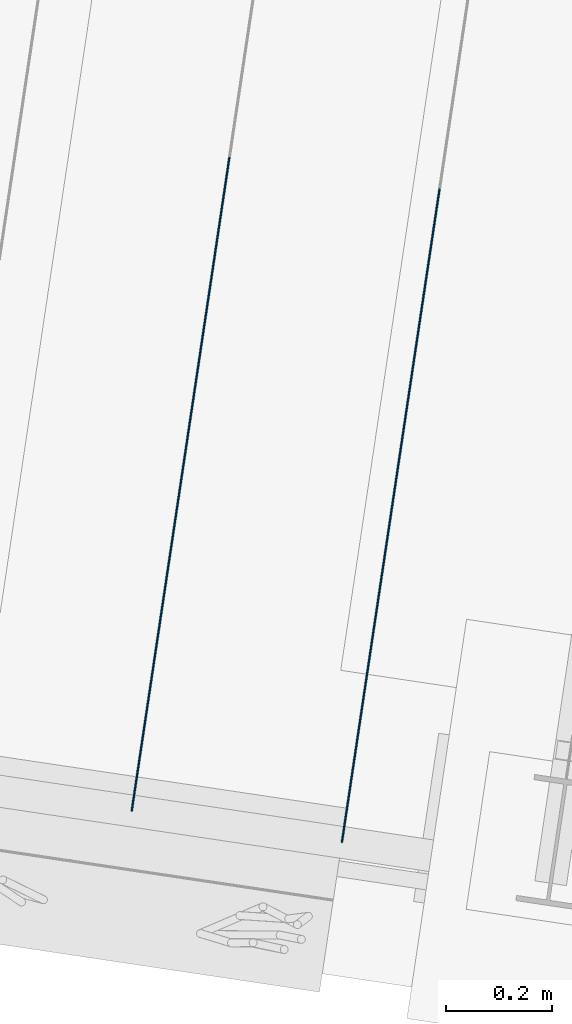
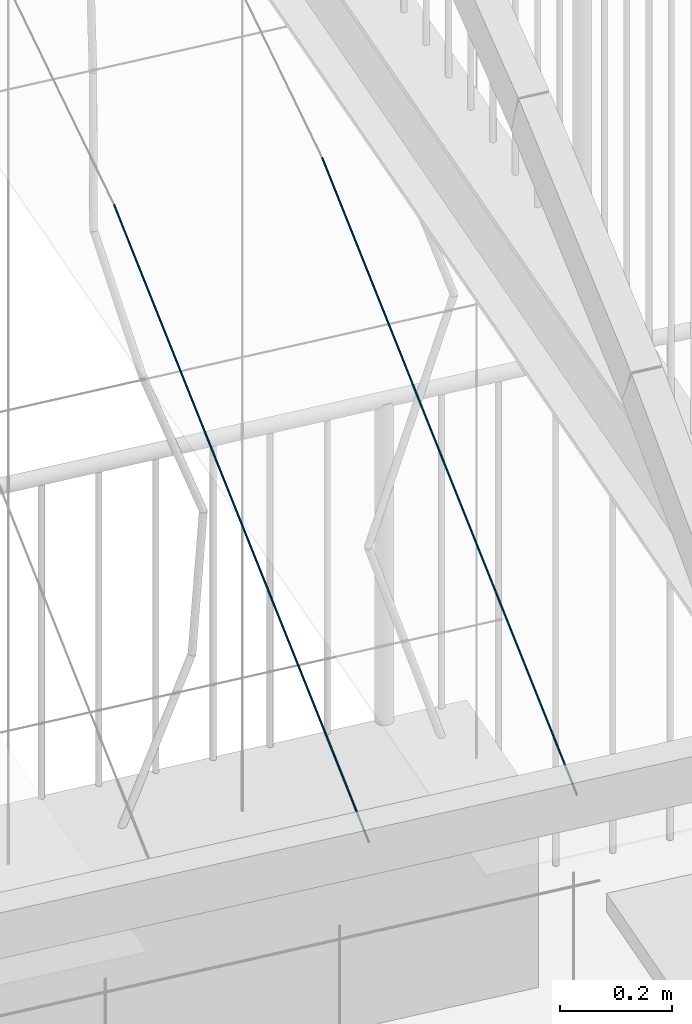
# One storey, part 14 of 143: 2 members, 1 element without a shape of its own.
"""IFC4 building model written with IfcOpenShell, lengths in metres."""

from ifc_helpers import new_model, si_unit, direction, frame, origin_with_axes, place, context, subcontext, project, spatial, circle, extrude, material, material_profile, profile_set, profile_usage, type_object, element, aggregate, save


model = new_model("IFC4")

# Units and contexts
model_context = context("Model", 3, precision=1e-05, world=origin_with_axes(), true_north=direction((0.0, 1.0)))
body_context = subcontext(model_context, "Body", "Model", "MODEL_VIEW")
ifc_project = project(units=[si_unit("VOLUMEUNIT", "CUBIC_METRE"), si_unit("LENGTHUNIT", "METRE"), si_unit("AREAUNIT", "SQUARE_METRE")], contexts=[model_context])

# Site, building, storey
site_placement = place(None, origin_with_axes())
site = spatial("IfcSite", under=ifc_project, at=site_placement, Name="Lares · Rua das Mercês · artigo 4771")
building_placement = place(site_placement, frame((15.0, 9.7, 15.8), z_axis=(0.0, 0.0, 1.0), x_axis=(0.989015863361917, -0.147809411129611, 0.0)))
building = spatial("IfcBuilding", under=site, at=building_placement, Name="Casa Sobreposta")
storey_placement = place(building_placement, origin_with_axes())
storey = spatial("IfcBuildingStorey", under=building, at=storey_placement, Name="00 · Habitação e estacionamento", Elevation=15.8)

# Assembly, members
assembly_placement = place(storey_placement, origin_with_axes())
assembly = element("IfcElementAssembly", 1, at=assembly_placement, inside=storey, Name="Pérgola · prolongamento da estufa 6 m", ObjectType="PERGOLA_GREENHOUSE_EXTENSION", PredefinedType="USERDEFINED")
ifc_material = material(Name="Aço galvanizado / Stahl verzinkt", Category="steel")
ifc_material_profile = material_profile(ifc_material, circle(Radius=0.002))
ifc_profile_set = profile_set([ifc_material_profile], Name="D0.004")
ifc_profile_usage_1 = profile_usage(ifc_profile_set)
member_type = type_object("IfcMemberType", Name="D0.004 / galvanized", PredefinedType="NOTDEFINED", material=ifc_profile_set)
member_1_placement = place(assembly_placement, frame((-3.8, -1.5, 6.23430000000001), z_axis=(0.0, 0.905876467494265, 0.423541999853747), x_axis=(1.0, 0.0, 0.0)))
member_1 = element("IfcMember", 2, at=member_1_placement, type_object=member_type, material=ifc_profile_usage_1, Name="Pérgola · fio para trepadeiras", context=body_context, shape_type="SweptSolid", body=[
    extrude(circle(Radius=0.002), origin_with_axes(), (0.0, 0.0, 1.0), 1.37271642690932),
])
ifc_profile_usage_2 = profile_usage(ifc_profile_set)
member_2_placement = place(assembly_placement, frame((-3.4, -1.5, 6.23430000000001), z_axis=(0.0, 0.905876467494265, 0.423541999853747), x_axis=(1.0, 0.0, 0.0)))
member_2 = element("IfcMember", 3, at=member_2_placement, type_object=member_type, material=ifc_profile_usage_2, Name="Pérgola · fio para trepadeiras", context=body_context, shape_type="SweptSolid", body=[
    extrude(circle(Radius=0.002), origin_with_axes(), (0.0, 0.0, 1.0), 1.37271642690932),
])
aggregate(assembly, [member_1, member_2])

save(model, "model.ifc")
